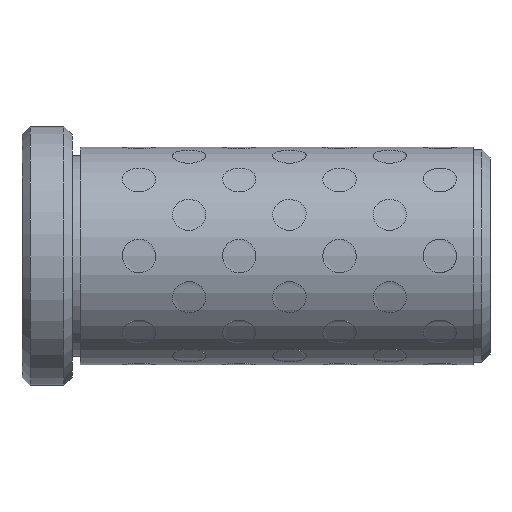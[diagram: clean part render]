
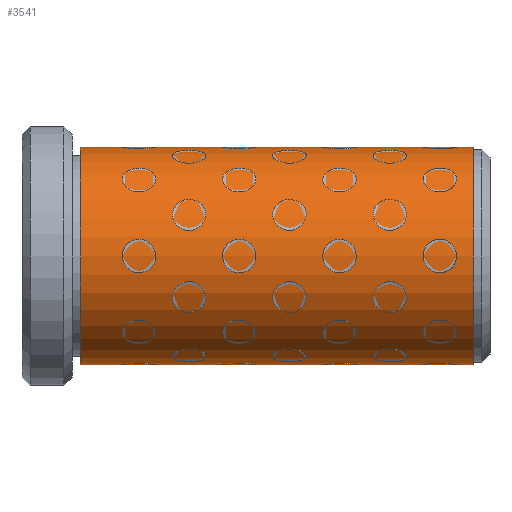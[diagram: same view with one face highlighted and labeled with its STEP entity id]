
A CAD part, left-side view. The second image highlights one B-rep face of the part: STEP entity #3541.
In plain terms, the highlighted cylindrical face has radius 13 mm (diameter 26 mm), a full revolution.
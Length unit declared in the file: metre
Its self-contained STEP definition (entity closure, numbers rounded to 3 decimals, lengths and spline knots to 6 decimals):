
#3541 = ADVANCED_FACE( '', ( #3790, #3791 ), #3792, .T. );
#3790 = FACE_OUTER_BOUND( '', #4339, .T. );
#3791 = FACE_OUTER_BOUND( '', #4340, .T. );
#3792 = CYLINDRICAL_SURFACE( '', #4341, 0.013 );
#4339 = EDGE_LOOP( '', ( #4904 ) );
#4340 = EDGE_LOOP( '', ( #4905 ) );
#4341 = AXIS2_PLACEMENT_3D( '', #4906, #4907, #4908 );
#4904 = ORIENTED_EDGE( '', *, *, #5884, .T. );
#4905 = ORIENTED_EDGE( '', *, *, #5883, .F. );
#4906 = CARTESIAN_POINT( '', ( 0., 0., 0. ) );
#4907 = DIRECTION( '', ( 0., 1., 0. ) );
#4908 = DIRECTION( '', ( 0., 0., -1. ) );
#5883 = EDGE_CURVE( '', #6050, #6050, #6051, .T. );
#5884 = EDGE_CURVE( '', #6052, #6052, #6053, .T. );
#6050 = VERTEX_POINT( '', #6368 );
#6051 = CIRCLE( '', #6369, 0.013 );
#6052 = VERTEX_POINT( '', #6370 );
#6053 = CIRCLE( '', #6371, 0.013 );
#6368 = CARTESIAN_POINT( '', ( 0., 0.002, -0.013 ) );
#6369 = AXIS2_PLACEMENT_3D( '', #14470, #14471, #14472 );
#6370 = CARTESIAN_POINT( '', ( 0., 0.049, -0.013 ) );
#6371 = AXIS2_PLACEMENT_3D( '', #14473, #14474, #14475 );
#14470 = CARTESIAN_POINT( '', ( 0., 0.002, 0. ) );
#14471 = DIRECTION( '', ( 0., -1., 0. ) );
#14472 = DIRECTION( '', ( 0., 0., -1. ) );
#14473 = CARTESIAN_POINT( '', ( 0., 0.049, 0. ) );
#14474 = DIRECTION( '', ( 0., -1., 0. ) );
#14475 = DIRECTION( '', ( 0., 0., -1. ) );
